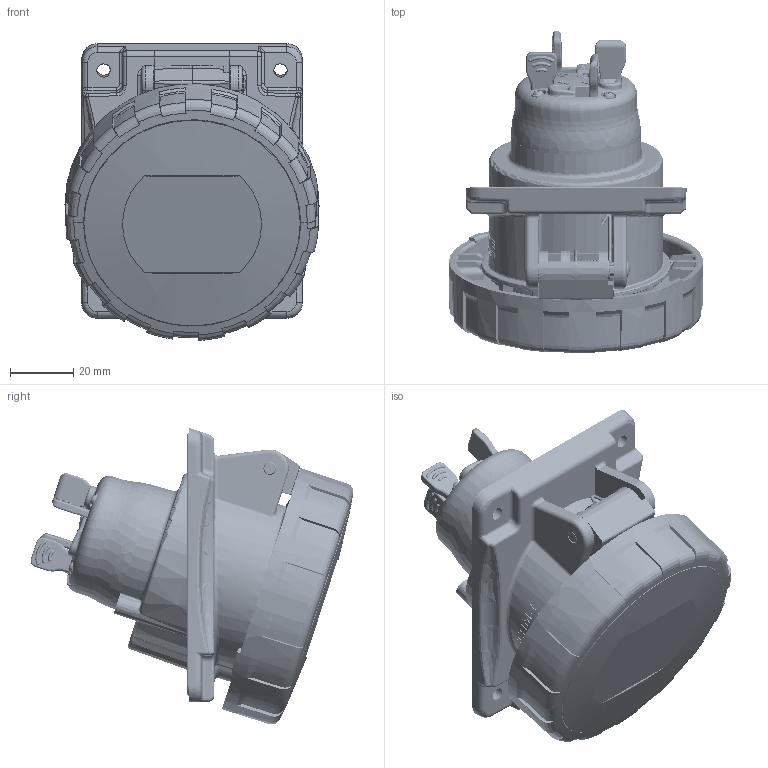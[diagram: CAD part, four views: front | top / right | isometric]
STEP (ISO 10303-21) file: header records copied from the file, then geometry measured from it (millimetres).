
FILE_DESCRIPTION(/* description */ (''),/* implementation_level */ '2;1');
FILE_NAME(/* name */ '4001829.stp',/* time_stamp */ '2019-04-12T08:51:22+02:00',/* author */ (''),/* organization */ (''),/* preprocessor_version */ 'ST-DEVELOPER v16.7',/* originating_system */ 'SIEMENS PLM Software NX 1855',/* authorisation */ '');
FILE_SCHEMA (('AUTOMOTIVE_DESIGN { 1 0 10303 214 3 1 1 1 }'));
Length unit declared in the file: millimetre
Products named in the file (1): BSOM605861F5uc0b
Bounding box: 80.46 x 102.24 x 94.01 mm (x, y, z)
Volume: 130495.7 mm3; surface area: 123094.7 mm2
Topology: 25 solids, 25 shells, 5825 faces, 14708 edges, 8854 vertices
Faces by surface type: bspline 1979, cylinder 1682, plane 1555, extrusion 197, cone 169, sphere 139, torus 96, revolution 8
Full cylindrical faces by diameter (mm): 0.998 x4, 1.9 x4, 2.4 x4, 2.5 x4, 2.7 x4, 3.2 x4, 4 x5, 4.2 x1, 4.25 x4, 4.5 x2, 5 x2, 41.2 x1, 48.2 x1, 68.7 x1, 74 x1
Entity records: 314440 total; most frequent: CARTESIAN_POINT 192015, ORIENTED_EDGE 28664, DIRECTION 20002, EDGE_CURVE 14332, VERTEX_POINT 8806, AXIS2_PLACEMENT_3D 7179, EDGE_LOOP 6162, ADVANCED_FACE 5824
